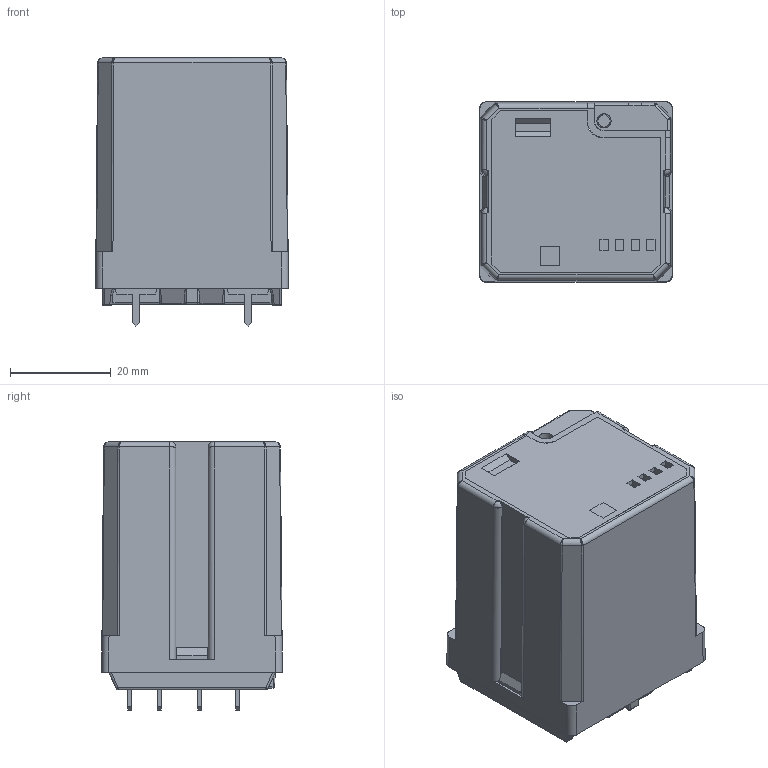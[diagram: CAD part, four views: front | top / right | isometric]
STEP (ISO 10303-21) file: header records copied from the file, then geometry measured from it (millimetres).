
FILE_DESCRIPTION(('STEP AP214'),'2;1');
FILE_NAME('6222.stp','2011-09-07T16:40:16',(''),(''),'2007.1.106','THINKDESIGN','');
FILE_SCHEMA(('AUTOMOTIVE_DESIGN'));
Length unit declared in the file: millimetre
Products named in the file (1): None
Bounding box: 38.2 x 35.8 x 53.11 mm (x, y, z)
Surface area: 11171.7 mm2 (no closed solid volume)
Topology: 0 solids, 0 shells, 460 faces, 2545 edges, 2516 vertices
Faces by surface type: plane 286, cylinder 112, bspline 62
Full cylindrical faces by diameter (mm): 5 x1
Entity records: 28586 total; most frequent: CARTESIAN_POINT 10446, DIRECTION 3033, COMPOSITE_CURVE_SEGMENT 2521, TRIMMED_CURVE 2103, VECTOR 1973, LINE 1973, AXIS2_PLACEMENT_3D 530, OUTER_BOUNDARY_CURVE 460
